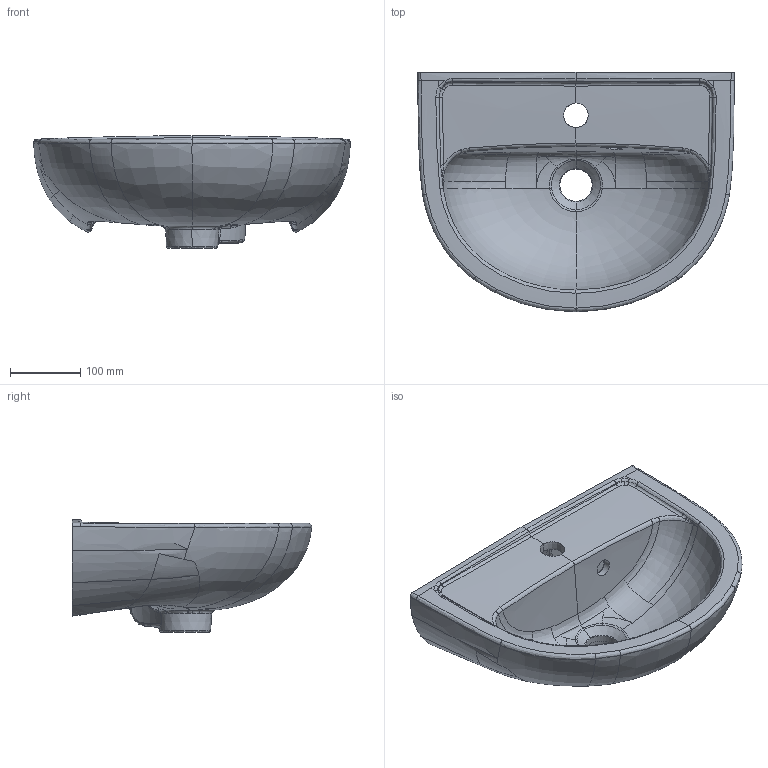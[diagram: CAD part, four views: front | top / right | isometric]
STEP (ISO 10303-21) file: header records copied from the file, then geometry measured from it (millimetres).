
FILE_DESCRIPTION(/* description */ (''),/* implementation_level */ '2;1');
FILE_NAME(/* name */ '7G1245_SAVAL 2_0_HWB 45_SP_030513.stp',/* time_stamp */ '2015-10-19T12:59:31+02:00',/* author */ (''),/* organization */ (''),/* preprocessor_version */ 'ST-DEVELOPER v16',/* originating_system */ 'SIEMENS PLM Software NX 10.0',/* authorisation */ '');
FILE_SCHEMA (('AUTOMOTIVE_DESIGN { 1 0 10303 214 3 1 1 1 }'));
Products named in the file (1): Varg159CD331gei3
Bounding box: 449.88 x 339.85 x 159.71 mm (x, y, z)
Volume: 7723233.2 mm3; surface area: 739399.7 mm2
Topology: 2 solids, 2 shells, 719 faces, 1779 edges, 1027 vertices
Faces by surface type: bspline 611, plane 33, cylinder 29, sphere 22, extrusion 8, torus 7, cone 7, revolution 2
Full cylindrical faces by diameter (mm): 24 x2, 46 x2
Entity records: 104937 total; most frequent: CARTESIAN_POINT 93233, ORIENTED_EDGE 3454, EDGE_CURVE 1727, B_SPLINE_CURVE_WITH_KNOTS 1404, VERTEX_POINT 1012, DIRECTION 802, EDGE_LOOP 735, ADVANCED_FACE 719
